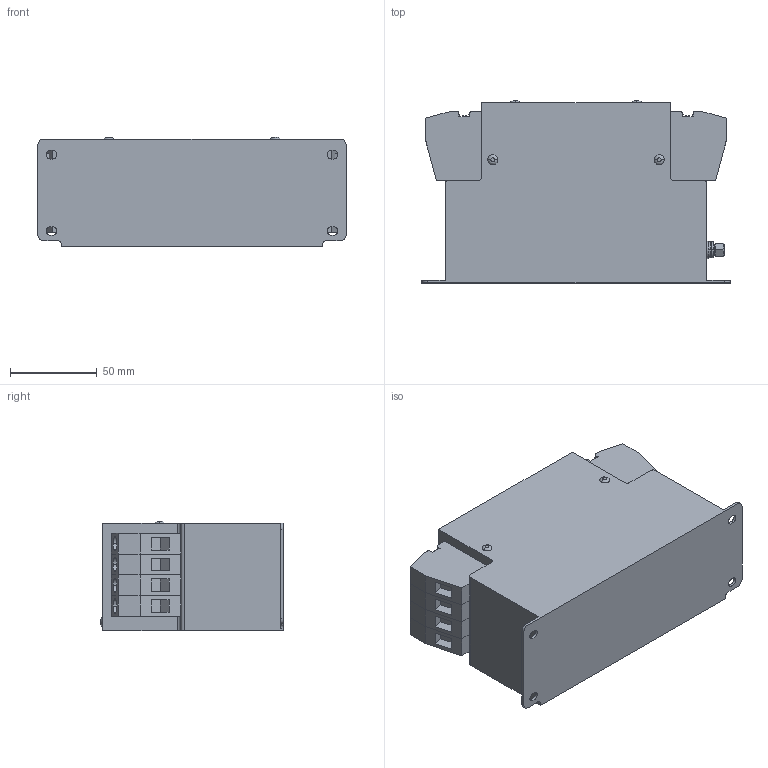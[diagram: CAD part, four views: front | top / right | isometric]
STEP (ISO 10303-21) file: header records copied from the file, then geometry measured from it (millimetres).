
FILE_DESCRIPTION (( 'STEP AP214' ), '1' );
FILE_NAME ('NF-4-50-BFG.STEP', '2021-08-04T12:20:20', ( '' ), ( '' ), 'SwSTEP 2.0', 'SolidWorks 2021', '' );
FILE_SCHEMA (( 'AUTOMOTIVE_DESIGN' ));
Length unit declared in the file: millimetre
Products named in the file (7): mutter_din_en_24034-m5-5; hdfk_16_vp; din125-1-a_5_3-140_hv_-_c4; 625125; NF-4-50-BFG; HDFK_16
Assembly tree (14 placements, depth 3):
  NF-4-50-BFG
    NF-4-50-BFG
    HDFK_16  x4
      hdfk_16_vp
    hdfk_16_vp  x4
    din125-1-a_5_3-140_hv_-_c4
    625125  x2
    mutter_din_en_24034-m5-5
Bounding box: 178 x 105 x 63 mm (x, y, z)
Volume: 984466.7 mm3; surface area: 109785.1 mm2
Topology: 13 solids, 13 shells, 767 faces, 1950 edges, 1286 vertices
Faces by surface type: plane 487, cylinder 222, cone 26, bspline 24, torus 8
Entity records: 6612 total; most frequent: CARTESIAN_POINT 1036, DIRECTION 951, ORIENTED_EDGE 884, EDGE_CURVE 442, AXIS2_PLACEMENT_3D 341, VERTEX_POINT 290, LINE 269, VECTOR 269
